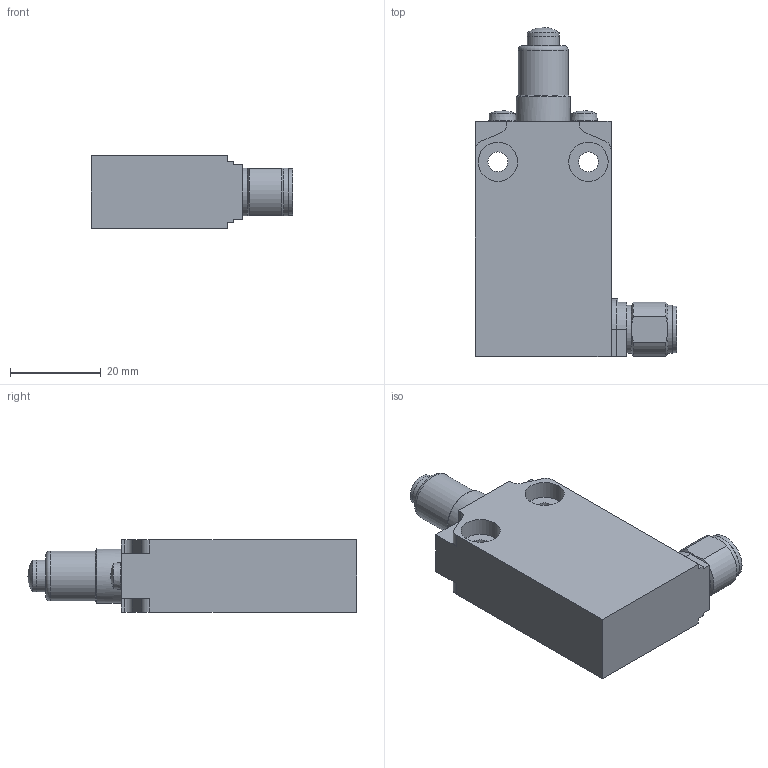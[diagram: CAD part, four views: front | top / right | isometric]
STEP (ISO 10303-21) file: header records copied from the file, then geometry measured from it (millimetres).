
FILE_DESCRIPTION(/* description */ (''),/* implementation_level */ '2;1');
FILE_NAME(/* name */ 'C:\Users\servizio.tecnico\Desktop\CADENAS\3D\EP1_STP\STP_EP1_G16M.stp',/* time_stamp */ '2017-09-04T11:08:23+02:00',/* author */ ('servizio.tecnico'),/* organization */ (''),/* preprocessor_version */ 'ST-DEVELOPER v16.1',/* originating_system */ 'Autodesk Inventor 2016',/* authorisation */ '');
FILE_SCHEMA (('AUTOMOTIVE_DESIGN { 1 0 10303 214 3 1 1 }'));
Length unit declared in the file: millimetre
Products named in the file (3): Product; EP1G16-M; BASE ASSI 
Assembly tree (2 placements, depth 3):
  BASE ASSI 
    EP1G16-M
      Product
Bounding box: 44.5 x 72.7 x 16 mm (x, y, z)
Volume: 26775 mm3; surface area: 9326.5 mm2
Topology: 3 solids, 3 shells, 113 faces, 274 edges, 177 vertices
Faces by surface type: plane 56, cylinder 39, cone 11, torus 4, sphere 3
Full cylindrical faces by diameter (mm): 4.4 x2, 5 x2, 7 x3, 7.1 x1, 8.7 x4, 10.3 x1, 10.6 x2, 11 x1, 12 x1
Entity records: 3209 total; most frequent: DIRECTION 558, CARTESIAN_POINT 551, ORIENTED_EDGE 472, EDGE_CURVE 236, AXIS2_PLACEMENT_3D 220, VERTEX_POINT 165, EDGE_LOOP 153, LINE 118
